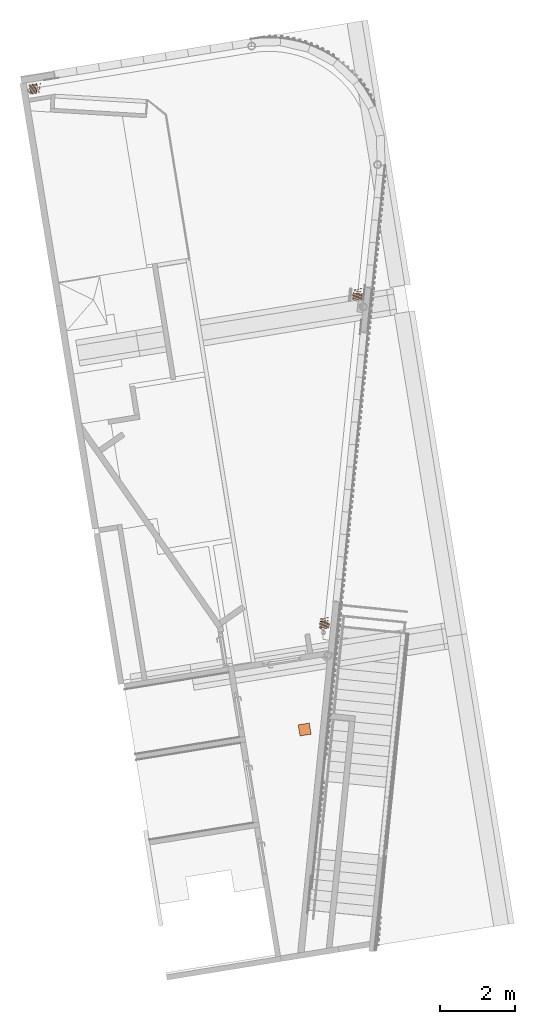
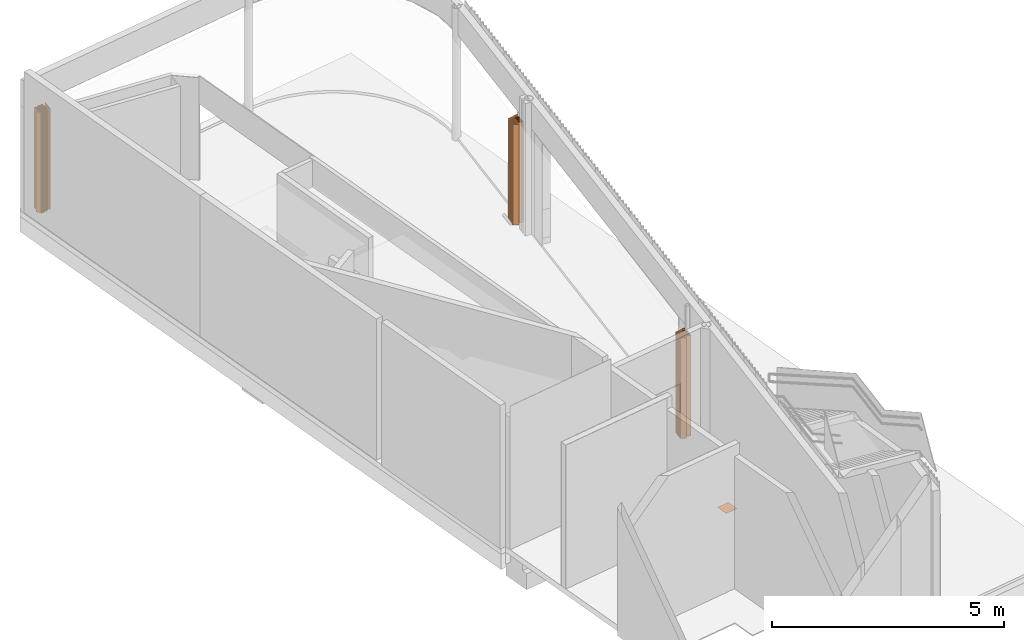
# One storey, part 22 of 23: 4 proxies.
"""IFC2X3 building model written with IfcOpenShell, lengths in millimetres."""

from ifc_helpers import new_model, entity, si_unit, converted_unit, derived_unit, direction, frame, frame_2d, origin, origin_with_axes, place, context, subcontext, project, spatial, polyline, rectangle, outline, extrude, source, transform, mapped, material, type_object, element, save


model = new_model("IFC2X3")

# Units and contexts
plan_context = context("Plan", 3, precision=1e-05, world=origin_with_axes())
model_context = context("Model", 3, precision=0.01, world=origin(), true_north=direction((6.12323399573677e-17, 1.0)))
body_context = subcontext(model_context, "Body", "Model", "MODEL_VIEW")
ifc_project = project(units=[converted_unit("PLANEANGLEUNIT", "DEGREE", entity("IfcPositiveLengthMeasure", 0.0174532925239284), si_unit("PLANEANGLEUNIT", "RADIAN"), dimensions=[0, 0, 0, 0, 0, 0, 0]), si_unit("AREAUNIT", "SQUARE_METRE"), si_unit("LENGTHUNIT", "METRE", prefix="MILLI"), si_unit("MASSUNIT", "GRAM", prefix="KILO"), si_unit("POWERUNIT", "WATT"), si_unit("PRESSUREUNIT", "PASCAL", prefix="KILO"), si_unit("FORCEUNIT", "NEWTON", prefix="KILO"), si_unit("ELECTRICVOLTAGEUNIT", "VOLT"), si_unit("ELECTRICCURRENTUNIT", "AMPERE"), si_unit("THERMODYNAMICTEMPERATUREUNIT", "DEGREE_CELSIUS"), si_unit("TIMEUNIT", "SECOND"), si_unit("VOLUMEUNIT", "CUBIC_METRE"), derived_unit("LINEARVELOCITYUNIT", [(si_unit("LENGTHUNIT", "METRE"), 1), (si_unit("TIMEUNIT", "SECOND"), -1)]), derived_unit("VOLUMETRICFLOWRATEUNIT", [(si_unit("VOLUMEUNIT", "CUBIC_METRE"), 1), (si_unit("TIMEUNIT", "SECOND"), -1)]), derived_unit("THERMALTRANSMITTANCEUNIT", [(si_unit("POWERUNIT", "WATT"), 1), (si_unit("THERMODYNAMICTEMPERATUREUNIT", "KELVIN"), -1), (si_unit("AREAUNIT", "SQUARE_METRE"), -1)]), derived_unit("SOUNDPRESSUREUNIT", [(si_unit("PRESSUREUNIT", "PASCAL"), 1)])], contexts=[model_context, plan_context])

# Site, building, storey
site_placement = place(None, frame((-0.00071070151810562, 0.00438415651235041, 0.0), z_axis=(0.0, 0.0, 1.0), x_axis=(-0.160236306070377, 0.987078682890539, 0.0)))
site = spatial("IfcSite", under=ifc_project, at=site_placement, Name="Default", CompositionType="ELEMENT")
building_placement = place(site_placement, origin_with_axes())
building = spatial("IfcBuilding", under=site, at=building_placement, Name="TOO", CompositionType="ELEMENT")
storey_placement = place(building_placement, frame((0.0, 0.0, 58999.9999999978), z_axis=(0.0, 0.0, 1.0), x_axis=(1.0, 0.0, 0.0)))
storey = spatial("IfcBuildingStorey", under=building, at=storey_placement, Name="Nivå F", CompositionType="ELEMENT", Elevation=58999.9999999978)

# Proxies
ifc_material_1 = material(Name="Glass")
building_element_proxy_type_1 = type_object("IfcBuildingElementProxyType", Name="248 Sidefoldesjalusi:A248 Sidefoldesjalusi", PredefinedType="NOTDEFINED", material=ifc_material_1)
shared_shape_1 = source(origin(), body_context, "Body", "SweptSolid", [
    extrude(rectangle(XDim=130.0, YDim=8.0, at=frame_2d((0.0, 1.10134124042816e-13), x_axis=(1.0, 0.0))), frame((31.095418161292, 57.2195331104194, 50.0), z_axis=(0.0, 0.0, 1.0), x_axis=(-0.422618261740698, -0.906307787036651, 0.0)), (0.0, 0.0, 1.0), 2650.0),
    extrude(rectangle(XDim=260.0, YDim=8.00000000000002, at=frame_2d((1.4210854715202e-14, 0.799999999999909), x_axis=(1.0, 0.0))), frame((331.679663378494, -0.207055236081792, 50.0), z_axis=(0.0, 0.0, 1.0), x_axis=(0.258819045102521, -0.965925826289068, 0.0)), (0.0, 0.0, 1.0), 2650.0),
    extrude(rectangle(XDim=260.0, YDim=8.00000000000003, at=frame_2d((-1.4210854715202e-14, 0.799999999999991), x_axis=(1.0, 0.0))), frame((65.6524040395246, 0.0, 50.0), z_axis=(0.0, 0.0, 1.0), x_axis=(0.0, -1.0, 0.0)), (0.0, 0.0, 1.0), 2650.0),
    extrude(rectangle(XDim=260.0, YDim=8.00000000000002, at=frame_2d((0.0, 0.799999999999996), x_axis=(1.0, 0.0))), frame((85.6524040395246, 0.0, 50.0), z_axis=(0.0, 0.0, 1.0), x_axis=(0.0, -1.0, 0.0)), (0.0, 0.0, 1.0), 2650.0),
    extrude(rectangle(XDim=260.0, YDim=8.00000000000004, at=frame_2d((0.0, 0.799999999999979), x_axis=(1.0, 0.0))), frame((105.652404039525, 0.0, 50.0), z_axis=(0.0, 0.0, 1.0), x_axis=(0.0, -1.0, 0.0)), (0.0, 0.0, 1.0), 2650.0),
    extrude(rectangle(XDim=260.0, YDim=8.00000000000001, at=frame_2d((0.0, 0.799999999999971), x_axis=(1.0, 0.0))), frame((125.652404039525, 0.0, 50.0), z_axis=(0.0, 0.0, 1.0), x_axis=(0.0, -1.0, 0.0)), (0.0, 0.0, 1.0), 2650.0),
    extrude(rectangle(XDim=260.0, YDim=8.00000000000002, at=frame_2d((1.4210854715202e-14, 0.799999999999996), x_axis=(1.0, 0.0))), frame((145.652404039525, 0.0, 50.0), z_axis=(0.0, 0.0, 1.0), x_axis=(0.0, -1.0, 0.0)), (0.0, 0.0, 1.0), 2650.0),
    extrude(rectangle(XDim=260.0, YDim=8.00000000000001, at=frame_2d((1.4210854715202e-14, 0.799999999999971), x_axis=(1.0, 0.0))), frame((165.652404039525, 0.0, 50.0), z_axis=(0.0, 0.0, 1.0), x_axis=(0.0, -1.0, 0.0)), (0.0, 0.0, 1.0), 2650.0),
    extrude(rectangle(XDim=260.0, YDim=8.00000000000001, at=frame_2d((1.4210854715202e-14, 0.799999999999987), x_axis=(1.0, 0.0))), frame((185.652404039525, 0.0, 50.0), z_axis=(0.0, 0.0, 1.0), x_axis=(0.0, -1.0, 0.0)), (0.0, 0.0, 1.0), 2650.0),
    extrude(rectangle(XDim=260.0, YDim=8.00000000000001, at=frame_2d((0.0, 0.799999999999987), x_axis=(1.0, 0.0))), frame((205.652404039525, 0.0, 50.0), z_axis=(0.0, 0.0, 1.0), x_axis=(0.0, -1.0, 0.0)), (0.0, 0.0, 1.0), 2650.0),
    extrude(rectangle(XDim=260.0, YDim=8.00000000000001, at=frame_2d((1.4210854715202e-14, 0.799999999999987), x_axis=(1.0, 0.0))), frame((225.652404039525, 0.0, 50.0), z_axis=(0.0, 0.0, 1.0), x_axis=(0.0, -1.0, 0.0)), (0.0, 0.0, 1.0), 2650.0),
    extrude(rectangle(XDim=260.0, YDim=8.00000000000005, at=frame_2d((1.4210854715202e-14, 0.79999999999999), x_axis=(1.0, 0.0))), frame((245.655448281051, -0.0697245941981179, 50.0), z_axis=(0.0, 0.0, 1.0), x_axis=(0.08715574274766, -0.996194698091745, 0.0)), (0.0, 0.0, 1.0), 2650.0),
    extrude(rectangle(XDim=260.0, YDim=8.00000000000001, at=frame_2d((0.0, 0.800000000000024), x_axis=(1.0, 0.0))), frame((278.879410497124, -0.0697245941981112, 50.0), z_axis=(0.0, 0.0, 1.0), x_axis=(0.0871557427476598, 0.996194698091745, 0.0)), (0.0, 0.0, 1.0), 2650.0),
])
for number, where, z_axis, x_axis, name in (
    (1, (771543.259581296, -506504.641085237, 0.0), (0.0, 0.0, 1.0), (0.96592698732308, -0.258814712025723, 0.0), "248 Sidefoldesjalusi:A248 Sidefoldesjalusi"),
    (2, (780036.532095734, -508775.488826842, 0.0), (0.0, 0.0, 1.0), (0.9688238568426, -0.24775054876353, 0.0), "248 Sidefoldesjalusi:A248 Sidefoldesjalusi"),
):
    element("IfcBuildingElementProxy", number, at=place(storey_placement, frame(where, z_axis=z_axis, x_axis=x_axis)), inside=storey, type_object=building_element_proxy_type_1, material=ifc_material_1, Name=name, ObjectType="248 Sidefoldesjalusi:A248 Sidefoldesjalusi", context=body_context, shape_type="MappedRepresentation", body=[
        mapped(shared_shape_1, transform((0.0, 0.0, 0.0), scale=1.0)),
    ])
building_element_proxy_type_2 = type_object("IfcBuildingElementProxyType", Name="248 Sidefoldesjalusi:A248 Sidefoldesjalusi", PredefinedType="NOTDEFINED", material=ifc_material_1)
shared_shape_2 = source(origin(), body_context, "Body", "SweptSolid", [
    extrude(rectangle(XDim=8.0, YDim=130.0, at=frame_2d((1.07913677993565e-13, -7.105427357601e-15), x_axis=(1.0, 0.0))), frame((31.095418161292, -57.2195331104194, 50.0), z_axis=(0.0, 0.0, 1.0), x_axis=(0.906307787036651, 0.422618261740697, 0.0)), (0.0, 0.0, 1.0), 2650.0),
    extrude(rectangle(XDim=260.0, YDim=7.99999999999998, at=frame_2d((2.8421709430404e-14, 0.800000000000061), x_axis=(1.0, 0.0))), frame((331.679663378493, 0.207055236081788, 50.0), z_axis=(0.0, 0.0, 1.0), x_axis=(-0.258819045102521, -0.965925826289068, 0.0)), (0.0, 0.0, 1.0), 2650.0),
    extrude(rectangle(XDim=260.0, YDim=8.00000000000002, at=frame_2d((1.4210854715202e-14, 0.799999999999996), x_axis=(1.0, 0.0))), frame((65.6524040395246, 0.0, 50.0), z_axis=(0.0, 0.0, 1.0), x_axis=(0.0, -1.0, 0.0)), (0.0, 0.0, 1.0), 2650.0),
    extrude(rectangle(XDim=260.0, YDim=8.00000000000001, at=frame_2d((1.4210854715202e-14, 0.799999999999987), x_axis=(1.0, 0.0))), frame((85.6524040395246, 0.0, 50.0), z_axis=(0.0, 0.0, 1.0), x_axis=(0.0, -1.0, 0.0)), (0.0, 0.0, 1.0), 2650.0),
    extrude(rectangle(XDim=260.0, YDim=8.00000000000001, at=frame_2d((-1.4210854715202e-14, 0.800000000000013), x_axis=(1.0, 0.0))), frame((105.652404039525, 0.0, 50.0), z_axis=(0.0, 0.0, 1.0), x_axis=(0.0, -1.0, 0.0)), (0.0, 0.0, 1.0), 2650.0),
    extrude(rectangle(XDim=260.0, YDim=7.99999999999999, at=frame_2d((0.0, 0.800000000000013), x_axis=(1.0, 0.0))), frame((125.652404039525, 0.0, 50.0), z_axis=(0.0, 0.0, 1.0), x_axis=(0.0, -1.0, 0.0)), (0.0, 0.0, 1.0), 2650.0),
    extrude(rectangle(XDim=260.0, YDim=8.00000000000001, at=frame_2d((1.4210854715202e-14, 0.799999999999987), x_axis=(1.0, 0.0))), frame((145.652404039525, 0.0, 50.0), z_axis=(0.0, 0.0, 1.0), x_axis=(0.0, -1.0, 0.0)), (0.0, 0.0, 1.0), 2650.0),
    extrude(rectangle(XDim=260.0, YDim=7.99999999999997, at=frame_2d((0.0, 0.799999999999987), x_axis=(1.0, 0.0))), frame((165.652404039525, 0.0, 50.0), z_axis=(0.0, 0.0, 1.0), x_axis=(0.0, -1.0, 0.0)), (0.0, 0.0, 1.0), 2650.0),
    extrude(rectangle(XDim=260.0, YDim=7.99999999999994, at=frame_2d((0.0, 0.799999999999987), x_axis=(1.0, 0.0))), frame((185.652404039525, 0.0, 50.0), z_axis=(0.0, 0.0, 1.0), x_axis=(0.0, -1.0, 0.0)), (0.0, 0.0, 1.0), 2650.0),
    extrude(rectangle(XDim=260.0, YDim=7.99999999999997, at=frame_2d((-1.4210854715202e-14, 0.799999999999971), x_axis=(1.0, 0.0))), frame((205.652404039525, 0.0, 50.0), z_axis=(0.0, 0.0, 1.0), x_axis=(0.0, -1.0, 0.0)), (0.0, 0.0, 1.0), 2650.0),
    extrude(rectangle(XDim=260.0, YDim=8.00000000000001, at=frame_2d((1.4210854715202e-14, 0.799999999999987), x_axis=(1.0, 0.0))), frame((225.652404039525, 0.0, 50.0), z_axis=(0.0, 0.0, 1.0), x_axis=(0.0, -1.0, 0.0)), (0.0, 0.0, 1.0), 2650.0),
    extrude(rectangle(XDim=260.0, YDim=8.00000000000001, at=frame_2d((0.0, 0.800000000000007), x_axis=(1.0, 0.0))), frame((245.655448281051, 0.0697245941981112, 50.0), z_axis=(0.0, 0.0, 1.0), x_axis=(-0.0871557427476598, -0.996194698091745, 0.0)), (0.0, 0.0, 1.0), 2650.0),
    extrude(rectangle(XDim=260.0, YDim=8.00000000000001, at=frame_2d((2.8421709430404e-14, 0.800000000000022), x_axis=(1.0, 0.0))), frame((278.879410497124, 0.0697245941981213, 50.0), z_axis=(0.0, 0.0, 1.0), x_axis=(-0.08715574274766, 0.996194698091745, 0.0)), (0.0, 0.0, 1.0), 2650.0),
])
proxy_1_placement = place(storey_placement, frame((787004.161542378, -501027.480498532, 0.0), z_axis=(0.0, 0.0, 1.0), x_axis=(0.0, -1.0, 0.0)))
element("IfcBuildingElementProxy", 3, at=proxy_1_placement, inside=storey, type_object=building_element_proxy_type_2, material=ifc_material_1, Name="248 Sidefoldesjalusi:A248 Sidefoldesjalusi", ObjectType="248 Sidefoldesjalusi:A248 Sidefoldesjalusi", context=body_context, shape_type="MappedRepresentation", body=[
    mapped(shared_shape_2, transform((0.0, 0.0, 0.0), scale=1.0)),
])
ifc_material_2 = material(Name="Default")
building_element_proxy_type_3 = type_object("IfcBuildingElementProxyType", Name="258 - gulvboks EL-kvadrat 300 x300:A258 - gulvboks EL-kvadrat 300x300", PredefinedType="NOTDEFINED", material=ifc_material_2)
shared_shape_3 = source(origin(), body_context, "Body", "SweptSolid", [
    extrude(rectangle(XDim=242.4, YDim=242.4, at=frame_2d((-7.105427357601e-15, 0.0), x_axis=(1.0, 0.0))), frame((0.0, 0.0, 0.0), z_axis=(0.0, 0.0, 1.0), x_axis=(-1.0, 0.0, 0.0)), (0.0, 0.0, 1.0), 5.0),
    extrude(outline(polyline([(-150.0, -150.0), (150.0, -150.0), (150.0, 150.0), (-150.0, 150.0), (-150.0, -150.0)]), holes=[polyline([(121.2, -121.2), (-121.2, -121.2), (-121.2, 121.2), (121.2, 121.2), (121.2, -121.2)])]), frame((0.0, 0.0, 0.0), z_axis=(0.0, 0.0, 1.0), x_axis=(-1.0, 0.0, 0.0)), (0.0, 0.0, 1.0), 5.0),
])
proxy_2_placement = place(storey_placement, frame((769027.619644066, -505579.077763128, 0.0), z_axis=(0.0, 0.0, 1.0), x_axis=(1.0, 0.0, 0.0)))
element("IfcBuildingElementProxy", 4, at=proxy_2_placement, inside=storey, type_object=building_element_proxy_type_3, material=ifc_material_2, Name="258 - gulvboks EL-kvadrat 300 x300:A258 - gulvboks EL-kvadrat 300x300", ObjectType="258 - gulvboks EL-kvadrat 300 x300:A258 - gulvboks EL-kvadrat 300x300", context=body_context, shape_type="MappedRepresentation", body=[
    mapped(shared_shape_3, transform((0.0, 0.0, 0.0), scale=1.0)),
])

save(model, "model.ifc")
